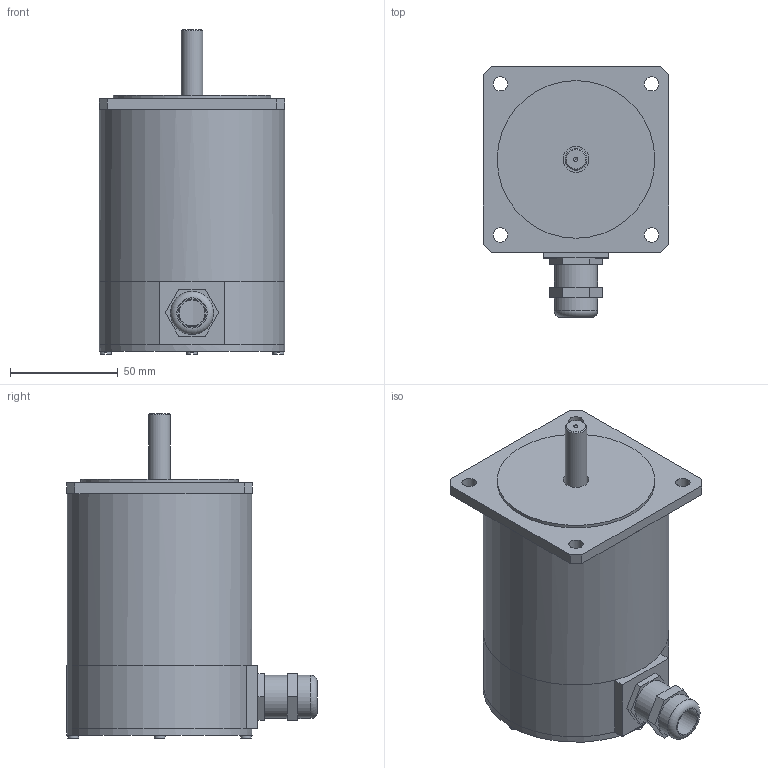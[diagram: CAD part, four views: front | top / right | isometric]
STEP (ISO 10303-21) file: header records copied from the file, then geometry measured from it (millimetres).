
FILE_DESCRIPTION((''),'2;1');
FILE_NAME('C:\Users\Reinhard\Documents\Inventor\Testschrittmotor\SM87\SM87.2-KV.stp','2012-11-14T20:30:06',('Reinhard'),(''),'Autodesk Inventor 2012','Autodesk Inventor 2012','');
FILE_SCHEMA(('CONFIG_CONTROL_DESIGN'));
Length unit declared in the file: millimetre
Products named in the file (1): SM87
Bounding box: 86 x 115.99 x 150.4 mm (x, y, z)
Volume: 141348.3 mm3; surface area: 91316.8 mm2
Topology: 3 solids, 3 shells, 104 faces, 237 edges, 152 vertices
Faces by surface type: plane 67, cylinder 31, cone 3, sphere 2, torus 1
Full cylindrical faces by diameter (mm): 2 x1, 5 x4, 6.62 x4, 10 x1, 12 x1, 12.001 x1, 13 x2, 15 x1, 18.376 x1, 20 x3, 73 x1, 78 x2, 82 x1, 86 x2
Entity records: 2807 total; most frequent: CARTESIAN_POINT 503, DIRECTION 485, ORIENTED_EDGE 398, EDGE_CURVE 199, AXIS2_PLACEMENT_3D 185, EDGE_LOOP 160, VERTEX_POINT 143, VECTOR 115
